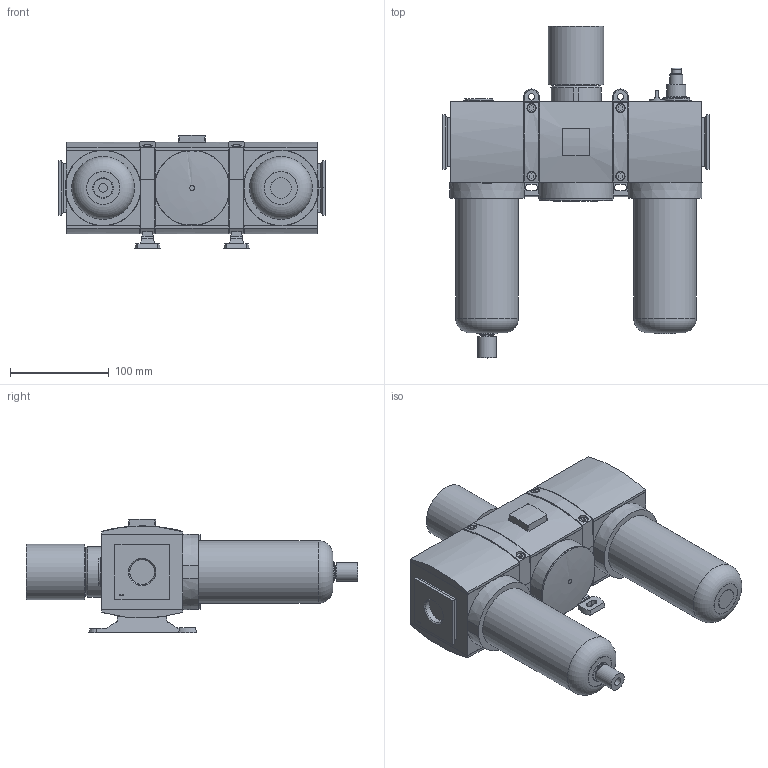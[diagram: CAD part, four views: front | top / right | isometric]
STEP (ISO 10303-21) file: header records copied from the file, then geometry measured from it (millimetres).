
FILE_DESCRIPTION( ( 'STEP AP214' ), '1' );
FILE_NAME( 'p:/temp/worker_275/temp/exporttempdir_5452_817_KcGKQ/format_0/07572020-190223_gen_15506.stp', '2020-02-07T18:57:24', ( '' ), ( '' ), ' ', 'PARTsolutions', ' ' );
FILE_SCHEMA( ( 'AUTOMOTIVE_DESIGN { 1 0 10303 214 1 1 1 1 }' ) );
Length unit declared in the file: millimetre
Products named in the file (14): 07572020-190223_gen_15506; _439498-011-F(L); _439489-001-0; _439851-002; _507439-006-P; _653-440512-002; _G653ASLA0B00A00_LS; _439488-011-F(L); _439489-002-H; _653-438047-009; _503493-001; _510722-001-STANDARD_653; _503402-001; _500180-014-F(L)
Assembly tree (19 placements, depth 2):
  07572020-190223_gen_15506
    _439498-011-F(L)
    _439489-001-0  x5
    _439851-002
    _507439-006-P  x2
    _653-440512-002
    _G653ASLA0B00A00_LS  x2
    _439488-011-F(L)
    _439489-002-H
    _653-438047-009
    _503493-001
    _510722-001-STANDARD_653
    _503402-001
    _500180-014-F(L)
Bounding box: 270 x 335.95 x 115.36 mm (x, y, z)
Volume: 3162293.7 mm3; surface area: 387271.4 mm2
Topology: 19 solids, 20 shells, 851 faces, 2042 edges, 1311 vertices
Faces by surface type: plane 607, cylinder 157, cone 60, torus 25, sphere 1, bspline 1
Full cylindrical faces by diameter (mm): 1.7 x2, 2.8 x2, 3 x2, 5.85 x4, 6.3 x4, 6.5 x2, 8.5 x4, 8.6 x1, 9.652 x1, 10 x1, 12 x4, 12.985 x1, 13 x2, 15.875 x1, 19 x1, 19.4 x1, 22.7 x1, 27 x1, 30 x2, 33.5 x2, 55.99 x1, 59.732 x1, 63.5 x2
Entity records: 26238 total; most frequent: CARTESIAN_POINT 3914, DIRECTION 3431, ORIENTED_EDGE 3164, EDGE_CURVE 1582, AXIS2_PLACEMENT_3D 1159, LINE 1113, VECTOR 1113, VERTEX_POINT 1068
